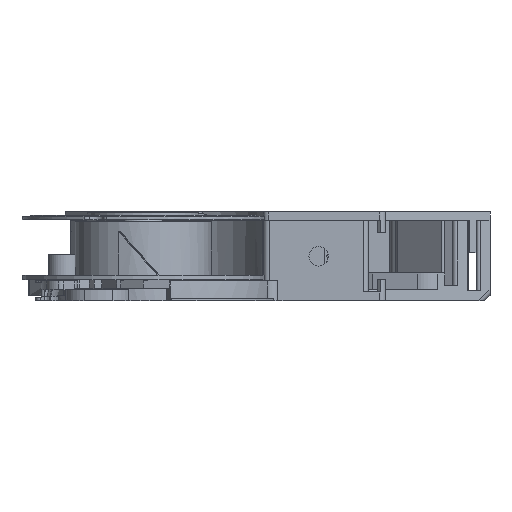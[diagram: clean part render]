
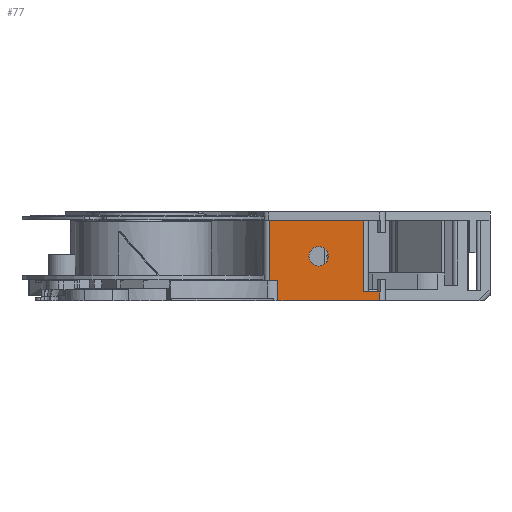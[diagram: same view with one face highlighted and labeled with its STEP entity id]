
A CAD part, left-side view. The second image highlights one B-rep face of the part: STEP entity #77.
In plain terms, the highlighted planar face has unit normal (-1, 0, 0).
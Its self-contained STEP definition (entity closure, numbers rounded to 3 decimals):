
#77 = ADVANCED_FACE ( 'NONE', ( #18019, #64194 ), #17656, .T. ) ;
#357 = DIRECTION ( 'NONE',  ( 0., 0., 1. ) ) ;
#1568 = LINE ( 'NONE', #35812, #10973 ) ;
#2285 = CARTESIAN_POINT ( 'NONE',  ( -90.652, -1.5, 9.75 ) ) ;
#2565 = ORIENTED_EDGE ( 'NONE', *, *, #30874, .T. ) ;
#3577 = DIRECTION ( 'NONE',  ( -1., 0., 0. ) ) ;
#5134 = CARTESIAN_POINT ( 'NONE',  ( -90.652, 0., 14.4 ) ) ;
#6417 = VERTEX_POINT ( 'NONE', #62337 ) ;
#6772 = DIRECTION ( 'NONE',  ( 0., 0., 1. ) ) ;
#6823 = VECTOR ( 'NONE', #45278, 1000. ) ;
#8394 = CARTESIAN_POINT ( 'NONE',  ( -90.652, 7.4, 14.4 ) ) ;
#8397 = LINE ( 'NONE', #71277, #15463 ) ;
#8511 = VECTOR ( 'NONE', #357, 1000. ) ;
#10973 = VECTOR ( 'NONE', #41424, 1000. ) ;
#11352 = DIRECTION ( 'NONE',  ( 0., 1., 0. ) ) ;
#13121 = EDGE_CURVE ( 'NONE', #18842, #20941, #33736, .T. ) ;
#13890 = VERTEX_POINT ( 'NONE', #34651 ) ;
#15463 = VECTOR ( 'NONE', #42313, 1000. ) ;
#17118 = CARTESIAN_POINT ( 'NONE',  ( -90.652, -12.5, 1.6 ) ) ;
#17656 = PLANE ( 'NONE',  #53084 ) ;
#18019 = FACE_BOUND ( 'NONE', #56224, .T. ) ;
#18417 = VERTEX_POINT ( 'NONE', #52832 ) ;
#18842 = VERTEX_POINT ( 'NONE', #8394 ) ;
#18891 = ORIENTED_EDGE ( 'NONE', *, *, #13121, .T. ) ;
#19124 = DIRECTION ( 'NONE',  ( 0., 0., 1. ) ) ;
#19221 = VERTEX_POINT ( 'NONE', #42217 ) ;
#19508 = EDGE_CURVE ( 'NONE', #19221, #18417, #53553, .T. ) ;
#19563 = EDGE_CURVE ( 'NONE', #13890, #73566, #57787, .T. ) ;
#20912 = ORIENTED_EDGE ( 'NONE', *, *, #36592, .F. ) ;
#20939 = ORIENTED_EDGE ( 'NONE', *, *, #21960, .F. ) ;
#20941 = VERTEX_POINT ( 'NONE', #66474 ) ;
#21960 = EDGE_CURVE ( 'NONE', #47359, #47359, #70499, .T. ) ;
#27511 = ORIENTED_EDGE ( 'NONE', *, *, #63313, .F. ) ;
#29117 = DIRECTION ( 'NONE',  ( 0., 0., -1. ) ) ;
#29529 = VERTEX_POINT ( 'NONE', #17118 ) ;
#29961 = DIRECTION ( 'NONE',  ( -1., 0., 0. ) ) ;
#30874 = EDGE_CURVE ( 'NONE', #29529, #13890, #73498, .T. ) ;
#33228 = ORIENTED_EDGE ( 'NONE', *, *, #19563, .T. ) ;
#33736 = LINE ( 'NONE', #73537, #6823 ) ;
#34651 = CARTESIAN_POINT ( 'NONE',  ( -90.652, -9.5, 1.6 ) ) ;
#35706 = CARTESIAN_POINT ( 'NONE',  ( -90.652, -12.5, 28.378 ) ) ;
#35812 = CARTESIAN_POINT ( 'NONE',  ( -90.652, 31.571, 3.6 ) ) ;
#35892 = CARTESIAN_POINT ( 'NONE',  ( -90.652, -9.5, 14.4 ) ) ;
#36452 = CARTESIAN_POINT ( 'NONE',  ( -90.652, -9.5, 14.4 ) ) ;
#36592 = EDGE_CURVE ( 'NONE', #19221, #20941, #1568, .T. ) ;
#39631 = AXIS2_PLACEMENT_3D ( 'NONE', #60542, #3577, #54971 ) ;
#40030 = CARTESIAN_POINT ( 'NONE',  ( -90.652, -13.5, 1.6 ) ) ;
#40901 = EDGE_CURVE ( 'NONE', #73566, #18842, #62094, .T. ) ;
#41424 = DIRECTION ( 'NONE',  ( 0., 1., 0. ) ) ;
#42217 = CARTESIAN_POINT ( 'NONE',  ( -90.652, 5.801, 3.6 ) ) ;
#42313 = DIRECTION ( 'NONE',  ( 0., 1., 0. ) ) ;
#42490 = ORIENTED_EDGE ( 'NONE', *, *, #68591, .T. ) ;
#45004 = ORIENTED_EDGE ( 'NONE', *, *, #19508, .T. ) ;
#45278 = DIRECTION ( 'NONE',  ( 0., 0., -1. ) ) ;
#45344 = DIRECTION ( 'NONE',  ( 0., 1., 0. ) ) ;
#46516 = LINE ( 'NONE', #35706, #8511 ) ;
#47359 = VERTEX_POINT ( 'NONE', #2285 ) ;
#52403 = VECTOR ( 'NONE', #29117, 1000. ) ;
#52832 = CARTESIAN_POINT ( 'NONE',  ( -90.652, 5.801, 0. ) ) ;
#53018 = VECTOR ( 'NONE', #11352, 1000. ) ;
#53084 = AXIS2_PLACEMENT_3D ( 'NONE', #63470, #29961, #19124 ) ;
#53553 = LINE ( 'NONE', #59171, #52403 ) ;
#54971 = DIRECTION ( 'NONE',  ( 0., 0., 1. ) ) ;
#56048 = ORIENTED_EDGE ( 'NONE', *, *, #40901, .T. ) ;
#56224 = EDGE_LOOP ( 'NONE', ( #20939 ) ) ;
#57787 = LINE ( 'NONE', #36452, #67826 ) ;
#58006 = VECTOR ( 'NONE', #45344, 1000. ) ;
#59171 = CARTESIAN_POINT ( 'NONE',  ( -90.652, 5.801, 0. ) ) ;
#59302 = EDGE_LOOP ( 'NONE', ( #56048, #18891, #20912, #45004, #27511, #42490, #2565, #33228 ) ) ;
#60542 = CARTESIAN_POINT ( 'NONE',  ( -90.652, -1.5, 8. ) ) ;
#62094 = LINE ( 'NONE', #5134, #58006 ) ;
#62337 = CARTESIAN_POINT ( 'NONE',  ( -90.652, -12.5, 0. ) ) ;
#63313 = EDGE_CURVE ( 'NONE', #6417, #18417, #8397, .T. ) ;
#63470 = CARTESIAN_POINT ( 'NONE',  ( -90.652, 0., 28.378 ) ) ;
#64194 = FACE_OUTER_BOUND ( 'NONE', #59302, .T. ) ;
#66474 = CARTESIAN_POINT ( 'NONE',  ( -90.652, 7.4, 3.6 ) ) ;
#67826 = VECTOR ( 'NONE', #6772, 1000. ) ;
#68591 = EDGE_CURVE ( 'NONE', #6417, #29529, #46516, .T. ) ;
#70499 = CIRCLE ( 'NONE', #39631, 1.75 ) ;
#71277 = CARTESIAN_POINT ( 'NONE',  ( -90.652, 0., 0. ) ) ;
#73498 = LINE ( 'NONE', #40030, #53018 ) ;
#73537 = CARTESIAN_POINT ( 'NONE',  ( -90.652, 7.4, 3.6 ) ) ;
#73566 = VERTEX_POINT ( 'NONE', #35892 ) ;
